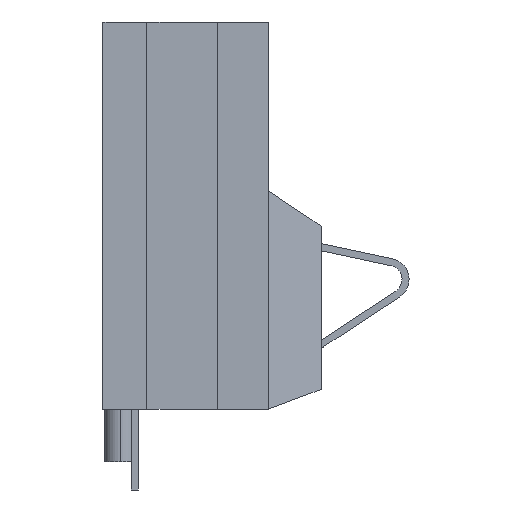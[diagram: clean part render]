
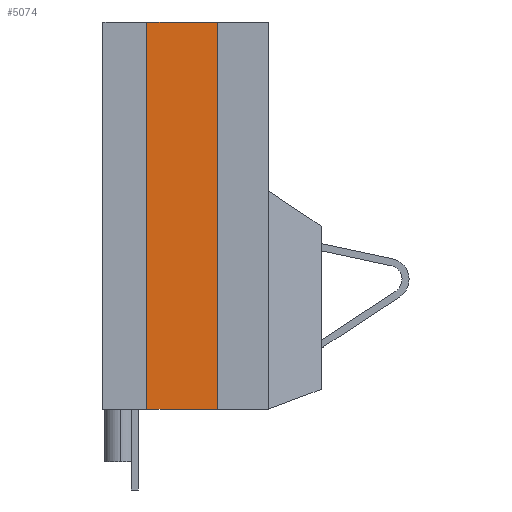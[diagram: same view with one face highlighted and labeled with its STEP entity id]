
A CAD part, left-side view. The second image highlights one B-rep face of the part: STEP entity #5074.
In plain terms, the highlighted planar face has unit normal (-1, 0, 0).
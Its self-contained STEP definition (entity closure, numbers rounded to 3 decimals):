
#73 = ORIENTED_EDGE ( 'NONE', *, *, #8611, .T. ) ;
#1142 = CARTESIAN_POINT ( 'NONE',  ( 148.966, 11.434, -48.092 ) ) ;
#1246 = CARTESIAN_POINT ( 'NONE',  ( 148.966, 13.434, -48.092 ) ) ;
#1322 = CARTESIAN_POINT ( 'NONE',  ( 148.966, 13.434, -48.092 ) ) ;
#1551 = VERTEX_POINT ( 'NONE', #1142 ) ;
#1899 = EDGE_CURVE ( 'NONE', #4370, #5852, #4203, .T. ) ;
#1921 = DIRECTION ( 'NONE',  ( 0., 0., -1. ) ) ;
#2024 = DIRECTION ( 'NONE',  ( 0., 0., 1. ) ) ;
#2517 = VECTOR ( 'NONE', #5024, 1000. ) ;
#2575 = ORIENTED_EDGE ( 'NONE', *, *, #7982, .F. ) ;
#3987 = ORIENTED_EDGE ( 'NONE', *, *, #5183, .T. ) ;
#4044 = ORIENTED_EDGE ( 'NONE', *, *, #1899, .F. ) ;
#4085 = CARTESIAN_POINT ( 'NONE',  ( 148.966, 13.434, -59.092 ) ) ;
#4203 = LINE ( 'NONE', #7764, #2517 ) ;
#4370 = VERTEX_POINT ( 'NONE', #8342 ) ;
#4537 = CARTESIAN_POINT ( 'NONE',  ( 148.966, 13.434, -48.092 ) ) ;
#4723 = DIRECTION ( 'NONE',  ( -1., 0., 0. ) ) ;
#4901 = CARTESIAN_POINT ( 'NONE',  ( 148.966, 12.639, -48.092 ) ) ;
#5024 = DIRECTION ( 'NONE',  ( 0., 1., 0. ) ) ;
#5061 = VERTEX_POINT ( 'NONE', #4537 ) ;
#5074 = ADVANCED_FACE ( 'NONE', ( #6045 ), #5492, .T. ) ;
#5149 = CARTESIAN_POINT ( 'NONE',  ( 148.966, 11.434, -48.092 ) ) ;
#5183 = EDGE_CURVE ( 'NONE', #1551, #5061, #5718, .T. ) ;
#5492 = PLANE ( 'NONE',  #5858 ) ;
#5718 = LINE ( 'NONE', #4901, #6735 ) ;
#5852 = VERTEX_POINT ( 'NONE', #4085 ) ;
#5858 = AXIS2_PLACEMENT_3D ( 'NONE', #1246, #4723, #2024 ) ;
#6045 = FACE_OUTER_BOUND ( 'NONE', #8663, .T. ) ;
#6735 = VECTOR ( 'NONE', #6995, 1000. ) ;
#6995 = DIRECTION ( 'NONE',  ( 0., 1., 0. ) ) ;
#7580 = LINE ( 'NONE', #1322, #8941 ) ;
#7624 = VECTOR ( 'NONE', #7976, 1000. ) ;
#7764 = CARTESIAN_POINT ( 'NONE',  ( 148.966, 12.639, -59.092 ) ) ;
#7976 = DIRECTION ( 'NONE',  ( 0., 0., -1. ) ) ;
#7982 = EDGE_CURVE ( 'NONE', #1551, #4370, #8699, .T. ) ;
#8342 = CARTESIAN_POINT ( 'NONE',  ( 148.966, 11.434, -59.092 ) ) ;
#8611 = EDGE_CURVE ( 'NONE', #5061, #5852, #7580, .T. ) ;
#8663 = EDGE_LOOP ( 'NONE', ( #3987, #73, #4044, #2575 ) ) ;
#8699 = LINE ( 'NONE', #5149, #7624 ) ;
#8941 = VECTOR ( 'NONE', #1921, 1000. ) ;
